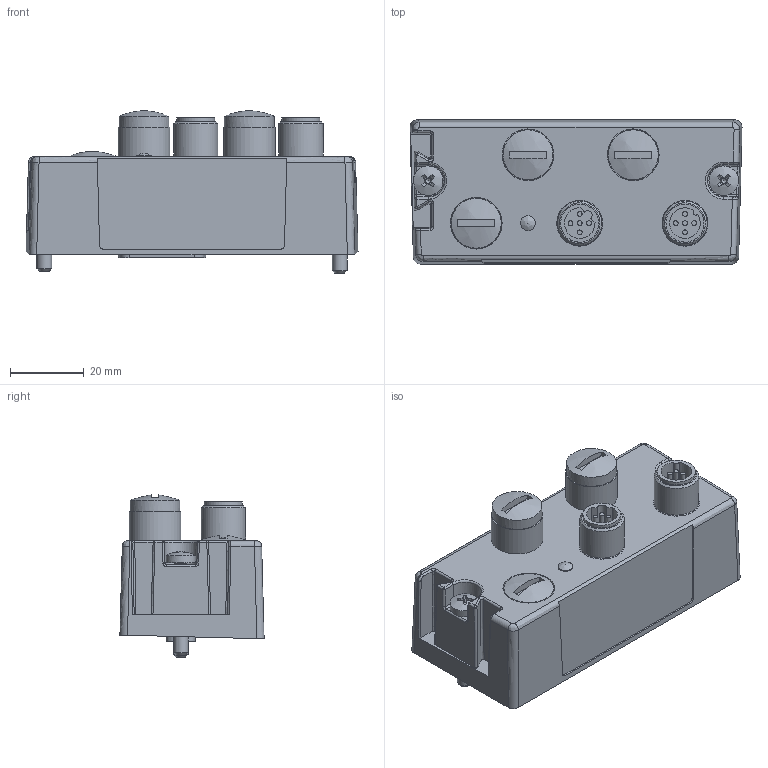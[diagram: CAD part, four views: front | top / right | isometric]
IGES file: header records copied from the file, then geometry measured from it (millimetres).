
Global section: file name: E:\temp\ms32_104.igs; preprocessor: I-DEAS 3D IGES Translator 11; date: 20080616.144439; units: millimetre
Bounding box: 89.87 x 39.03 x 43.93 mm (x, y, z)
Volume: 67479.8 mm3; surface area: 23223.5 mm2
Topology: 1 solids, 4 shells, 386 faces, 906 edges, 573 vertices
Faces by surface type: bspline 386
